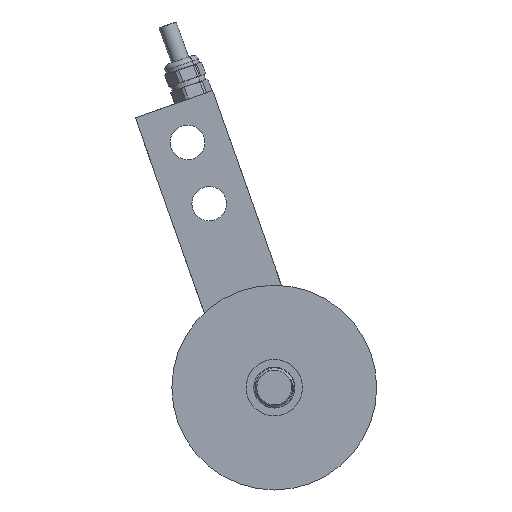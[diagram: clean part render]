
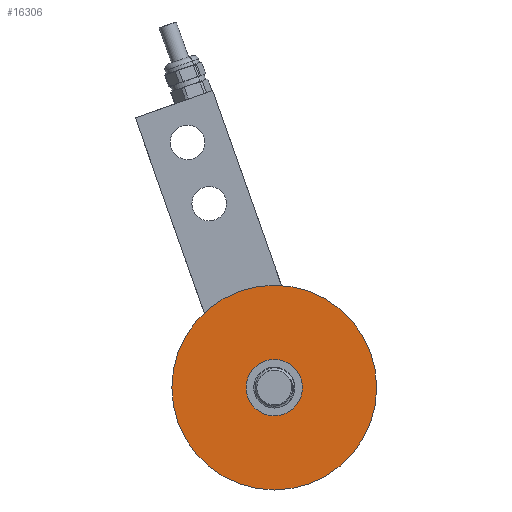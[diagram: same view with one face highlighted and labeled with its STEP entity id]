
A CAD part, front view. The second image highlights one B-rep face of the part: STEP entity #16306.
In plain terms, the highlighted planar face has unit normal (0, -1, 0).
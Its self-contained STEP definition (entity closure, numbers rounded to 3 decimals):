
#158 = ORIENTED_EDGE ( 'NONE', *, *, #3707, .T. ) ;
#572 = CARTESIAN_POINT ( 'NONE',  ( 0., 0., 0. ) ) ;
#585 = VERTEX_POINT ( 'NONE', #12568 ) ;
#827 = DIRECTION ( 'NONE',  ( 0., 1., 0. ) ) ;
#870 = ORIENTED_EDGE ( 'NONE', *, *, #9990, .F. ) ;
#1371 = CARTESIAN_POINT ( 'NONE',  ( 0., 0., 0. ) ) ;
#1717 = DIRECTION ( 'NONE',  ( 0., 1., 0. ) ) ;
#2263 = DIRECTION ( 'NONE',  ( 0., 1., 0. ) ) ;
#2882 = CIRCLE ( 'NONE', #15711, 11. ) ;
#3498 = CARTESIAN_POINT ( 'NONE',  ( 0., 0., 0. ) ) ;
#3530 = DIRECTION ( 'NONE',  ( 0., 0., 1. ) ) ;
#3707 = EDGE_CURVE ( 'NONE', #585, #6114, #2882, .T. ) ;
#4263 = EDGE_LOOP ( 'NONE', ( #870, #4660 ) ) ;
#4660 = ORIENTED_EDGE ( 'NONE', *, *, #18029, .F. ) ;
#5152 = DIRECTION ( 'NONE',  ( 0., 0., 1. ) ) ;
#6043 = DIRECTION ( 'NONE',  ( 0., 0., 1. ) ) ;
#6114 = VERTEX_POINT ( 'NONE', #6523 ) ;
#6161 = CARTESIAN_POINT ( 'NONE',  ( 0., 0., 40. ) ) ;
#6523 = CARTESIAN_POINT ( 'NONE',  ( 0., 0., 11. ) ) ;
#7490 = DIRECTION ( 'NONE',  ( 0., 1., 0. ) ) ;
#8237 = EDGE_LOOP ( 'NONE', ( #14159, #158 ) ) ;
#8352 = AXIS2_PLACEMENT_3D ( 'NONE', #3498, #1717, #6043 ) ;
#9990 = EDGE_CURVE ( 'NONE', #16288, #12021, #17238, .T. ) ;
#10608 = PLANE ( 'NONE',  #17021 ) ;
#10786 = FACE_BOUND ( 'NONE', #8237, .T. ) ;
#11402 = AXIS2_PLACEMENT_3D ( 'NONE', #1371, #14471, #3530 ) ;
#11922 = CARTESIAN_POINT ( 'NONE',  ( 0., 0., -40. ) ) ;
#12021 = VERTEX_POINT ( 'NONE', #6161 ) ;
#12099 = CARTESIAN_POINT ( 'NONE',  ( 0., 0., 0. ) ) ;
#12568 = CARTESIAN_POINT ( 'NONE',  ( 0., 0., -11. ) ) ;
#13186 = CIRCLE ( 'NONE', #11402, 40. ) ;
#13657 = DIRECTION ( 'NONE',  ( 0., 0., 1. ) ) ;
#14159 = ORIENTED_EDGE ( 'NONE', *, *, #15685, .T. ) ;
#14471 = DIRECTION ( 'NONE',  ( 0., 1., 0. ) ) ;
#15080 = FACE_OUTER_BOUND ( 'NONE', #4263, .T. ) ;
#15443 = AXIS2_PLACEMENT_3D ( 'NONE', #572, #7490, #16068 ) ;
#15685 = EDGE_CURVE ( 'NONE', #6114, #585, #16396, .T. ) ;
#15711 = AXIS2_PLACEMENT_3D ( 'NONE', #16534, #827, #5152 ) ;
#16068 = DIRECTION ( 'NONE',  ( 0., 0., 1. ) ) ;
#16288 = VERTEX_POINT ( 'NONE', #11922 ) ;
#16306 = ADVANCED_FACE ( 'NONE', ( #10786, #15080 ), #10608, .F. ) ;
#16396 = CIRCLE ( 'NONE', #8352, 11. ) ;
#16534 = CARTESIAN_POINT ( 'NONE',  ( 0., 0., 0. ) ) ;
#17021 = AXIS2_PLACEMENT_3D ( 'NONE', #12099, #2263, #13657 ) ;
#17238 = CIRCLE ( 'NONE', #15443, 40. ) ;
#18029 = EDGE_CURVE ( 'NONE', #12021, #16288, #13186, .T. ) ;
